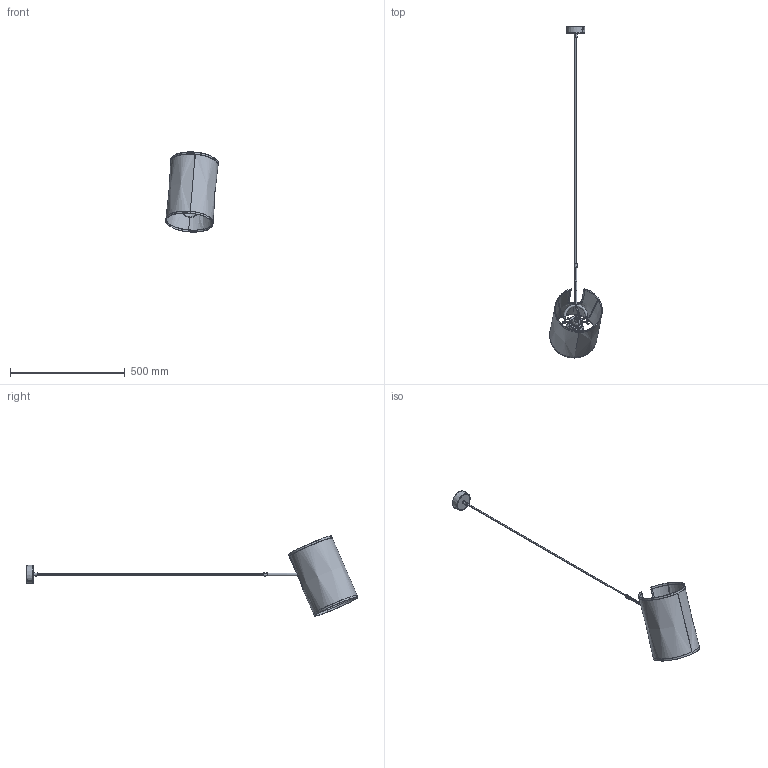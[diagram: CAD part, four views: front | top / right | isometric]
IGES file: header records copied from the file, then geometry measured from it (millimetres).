
Start section: SolidWorks IGES file using analytic representation for surfaces
Global section: file name: E:\Modele 3D_¿arówki_oprawki_kostki\Oprawki\Zelda.IGS; native system: SolidWorks 2016; preprocessor: SolidWorks 2016; author: Asia; date: 170526.143436; units: millimetre
Bounding box: 229.45 x 1448.03 x 349.78 mm (x, y, z)
Surface area: 582415.6 mm2 (no closed solid volume)
Topology: 0 solids, 0 shells, 941 faces, 13411 edges, 13358 vertices
Faces by surface type: bspline 481, revolution 460
